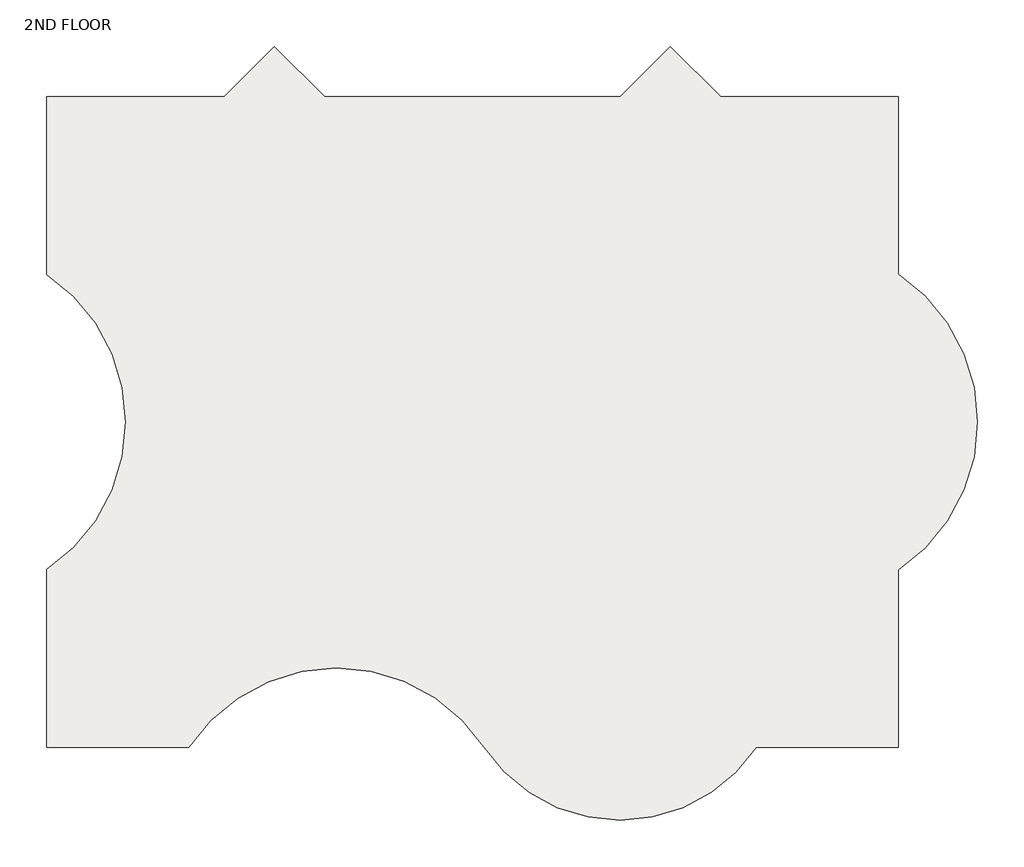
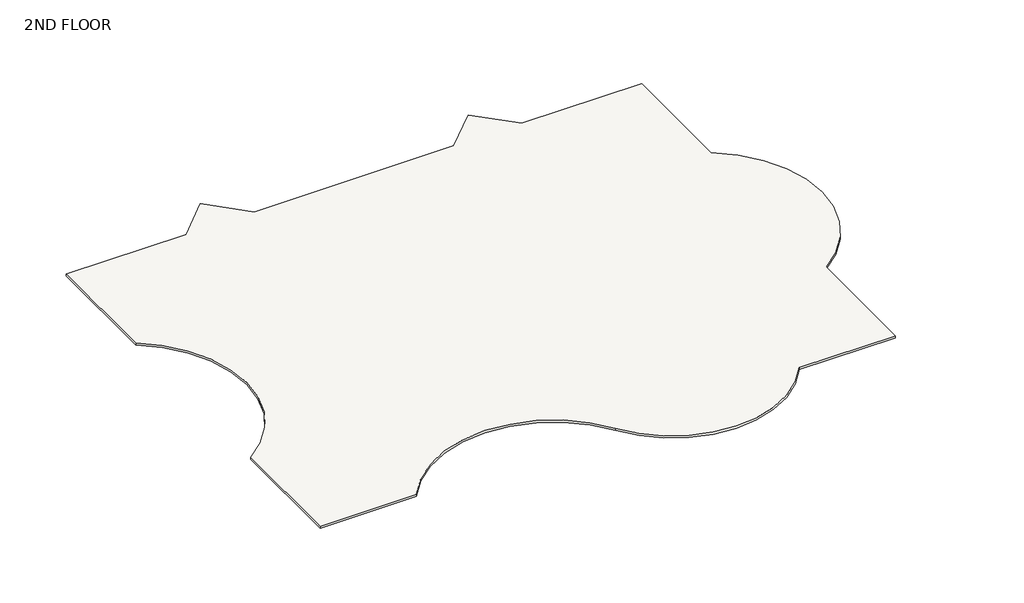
# One storey: 1 slab.
"""IFC4 building model written with IfcOpenShell, lengths in millimetres."""

from ifc_helpers import new_model, si_unit, point, frame, frame_2d, origin, place, context, project, spatial, polyline, circle_curve, trimmed, segment, composite_curve, outline, extrude, element, save

model = new_model("IFC4")

# Units and contexts
model_context = context("Model", 3, world=origin())
ifc_project = project(units=[si_unit("LENGTHUNIT", "METRE", prefix="MILLI")], contexts=[model_context])

# Site, building, storey
site = spatial("IfcSite", under=ifc_project)
building = spatial("IfcBuilding", under=site)
storey = spatial("IfcBuildingStorey", under=building, Name="2ND FLOOR", Elevation=9144.0)

# Slab
placement = place(None, origin())
element("IfcSlab", 1, ObjectType="ARCHITECTURAL FINISH FLOOR", at=placement, inside=storey, context=model_context, shape_type="SweptSolid", body=[
    extrude(outline(composite_curve([segment(polyline([(9294.3144878, 33696.275), (11885.8887629, 36287.8492751), (14477.463038, 33696.275), (29706.9420135, 33696.275), (32298.5162886, 36287.8492751), (34890.0905637, 33696.275), (44041.5300515, 33696.275), (44041.5300515, 24546.3877275)]), True, "CONTINUOUS"), segment(trimmed(circle_curve(frame_2d((38974.293871, 16919.575)), 9156.7), [point((44041.5300515, 24546.3877275))], [point((44041.5300515, 9292.7622725))], False, "CARTESIAN"), True, "CONTINUOUS"), segment(polyline([(44041.5300515, 9292.7622725), (44041.5300515, 142.875), (36720.4425102, 142.875)]), True, "CONTINUOUS"), segment(trimmed(circle_curve(frame_2d((29712.2025257, 4799.7966199)), 8414.4130309), [point((36720.4425102, 142.875))], [point((22700.1916667, 148.5548109))], False, "CARTESIAN"), True, "CONTINUOUS"), segment(trimmed(circle_curve(frame_2d((15090.775, -4898.9611805)), 9131.3), [point((22700.1916667, 148.5548109))], [point((7477.593824, 142.875))], True, "CARTESIAN"), True, "CONTINUOUS"), segment(polyline([(7477.593824, 142.875), (142.875, 142.875), (142.875, 9306.393824)]), True, "CONTINUOUS"), segment(trimmed(circle_curve(frame_2d((-4898.9611805, 16919.575)), 9131.3), [point((142.875, 9306.393824))], [point((142.875, 24532.756176))], True, "CARTESIAN"), True, "CONTINUOUS"), segment(polyline([(142.875, 24532.756176), (142.875, 33696.275), (9294.3144878, 33696.275)]), True, "CONTINUOUS")], self_intersect=False)), frame((0.0, 0.0, 8991.6), z_axis=(0.0, 0.0, 1.0), x_axis=(1.0, 0.0, 0.0)), (0.0, 0.0, 1.0), 171.45),
])

save(model, "model.ifc")
